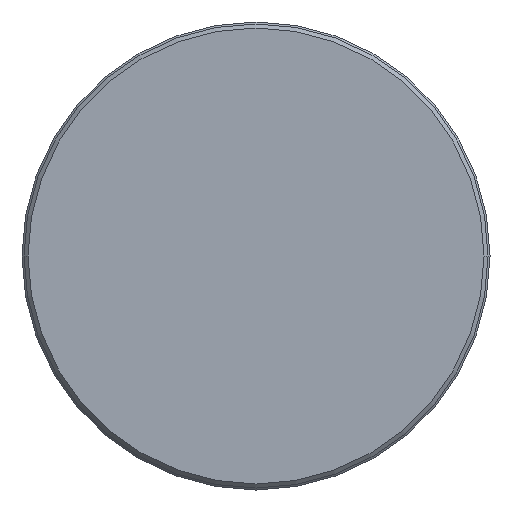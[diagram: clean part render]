
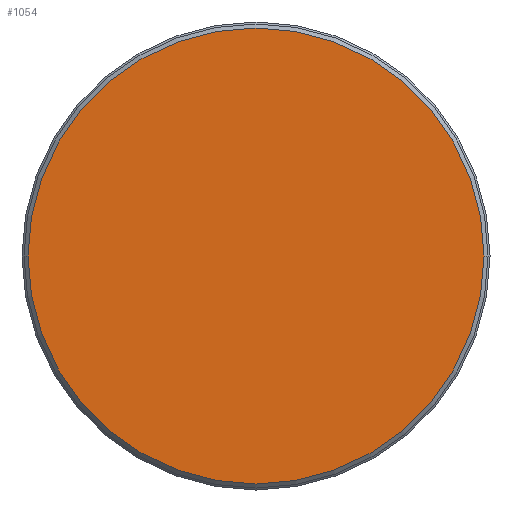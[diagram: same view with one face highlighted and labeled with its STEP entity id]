
A CAD part, front view. The second image highlights one B-rep face of the part: STEP entity #1054.
In plain terms, the highlighted planar face has unit normal (0, -1, 0).
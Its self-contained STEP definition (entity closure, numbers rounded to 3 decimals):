
#367=CARTESIAN_POINT('',(0.,41.,0.));
#368=DIRECTION('',(0.,1.,0.));
#369=DIRECTION('',(1.,0.,0.));
#370=AXIS2_PLACEMENT_3D('',#367,#368,#369);
#372=CARTESIAN_POINT('',(0.,41.,0.));
#373=DIRECTION('',(0.,1.,0.));
#374=DIRECTION('',(-1.,0.,0.));
#375=AXIS2_PLACEMENT_3D('',#372,#373,#374);
#451=CARTESIAN_POINT('',(28.5,41.,0.));
#452=CARTESIAN_POINT('',(-28.5,41.,0.));
#453=VERTEX_POINT('',#451);
#454=VERTEX_POINT('',#452);
#1045=CARTESIAN_POINT('',(0.,41.,0.));
#1046=DIRECTION('',(0.,1.,0.));
#1047=DIRECTION('',(1.,0.,0.));
#1048=AXIS2_PLACEMENT_3D('',#1045,#1046,#1047);
#1049=PLANE('',#1048);
#1050=ORIENTED_EDGE('',*,*,#506,.T.);
#1051=ORIENTED_EDGE('',*,*,#491,.T.);
#1052=EDGE_LOOP('',(#1050,#1051));
#1053=FACE_OUTER_BOUND('',#1052,.F.);
#1054=ADVANCED_FACE('',(#1053),#1049,.F.);
#371=CIRCLE('',#370,28.5);
#376=CIRCLE('',#375,28.5);
#491=EDGE_CURVE('',#454,#453,#376,.T.);
#506=EDGE_CURVE('',#453,#454,#371,.T.);
